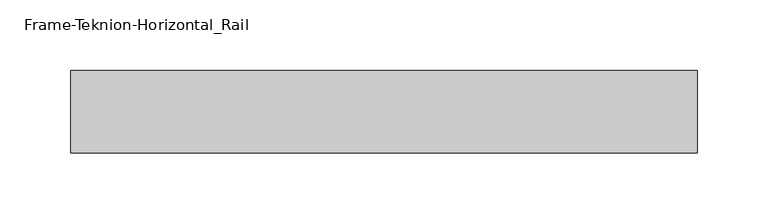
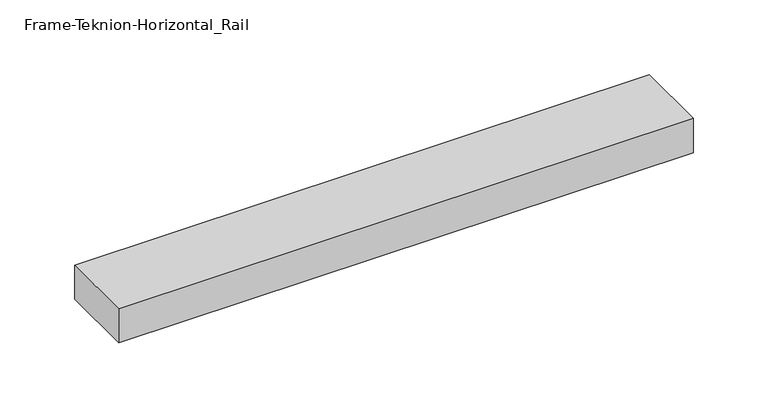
"""IFC4 building model written with IfcOpenShell, lengths in millimetres: proxy geometry, Frame-Teknion-Horizontal_Rail : FPKK."""

from ifc_helpers import new_model, si_unit, frame, origin, place, context, project, spatial, polyline, outline, extrude, source, transform, mapped, element, save


def frame_teknion_horizontal_rail_2bcae702(model_context):
    return source(origin(), model_context, "Body", "SweptSolid", [
        extrude(outline(polyline([(-221.6050781, -29.2199219), (-221.6050781, 29.2199219), (221.6050781, 29.2199219), (221.6050781, -29.2199219), (-221.6050781, -29.2199219)])), frame((0.0, 0.0, -13.9898438), z_axis=(0.0, 0.0, 1.0), x_axis=(1.0, 0.0, 0.0)), (0.0, 0.0, 1.0), 27.9796875),
    ])


if __name__ == "__main__":
    model = new_model("IFC4")
    model_context = context("Model", 3, world=origin())
    ifc_project = project(units=[si_unit("LENGTHUNIT", "METRE", prefix="MILLI")], contexts=[model_context])
    site = spatial("IfcSite", under=ifc_project)
    building = spatial("IfcBuilding", under=site)
    placement = place(None, origin())
    frame_teknion_horizontal_rail_shape = frame_teknion_horizontal_rail_2bcae702(model_context)
    element("IfcBuildingElementProxy", 1, Name="Frame-Teknion-Horizontal_Rail : FPKK", ObjectType="Frame-Teknion-Horizontal_Rail : FPKK", at=placement, inside=building, context=model_context, shape_type="MappedRepresentation", body=[
        mapped(frame_teknion_horizontal_rail_shape, transform((0.0, 0.0, 0.0), x_axis=(1.0, 0.0, 0.0), y_axis=(0.0, 1.0, 0.0), z_axis=(0.0, 0.0, 1.0))),
    ])
    save(model, "model.ifc")
